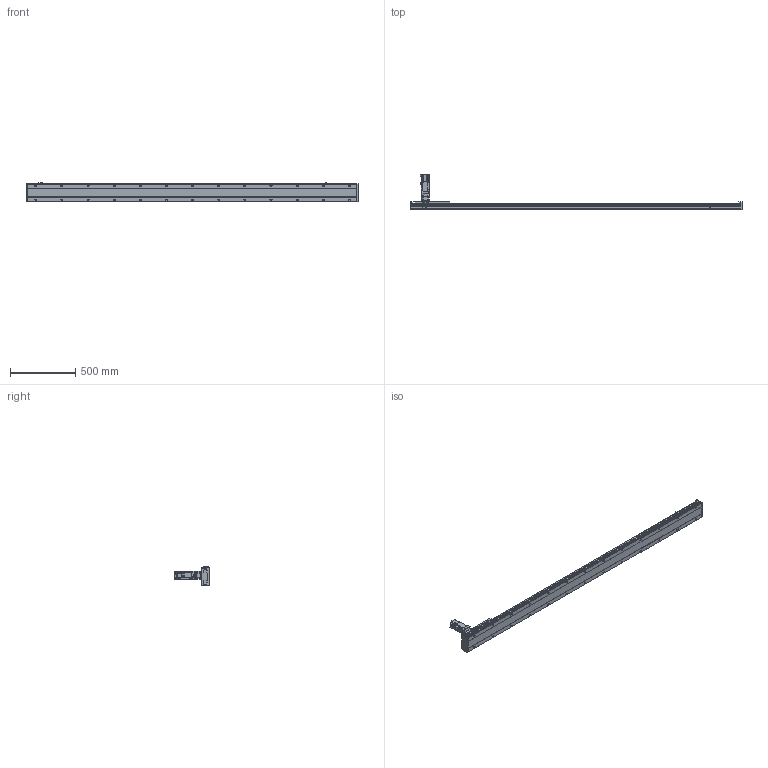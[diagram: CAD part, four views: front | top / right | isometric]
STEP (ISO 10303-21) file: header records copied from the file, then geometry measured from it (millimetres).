
FILE_DESCRIPTION(/* description */ ('STEP AP203'),/* implementation_level */ '2;1');
FILE_NAME(/* name */ 'SHS14A-L10-S2200-BC-T40-C1-N(0)',/* time_stamp */ '2023-03-27T08:50:10+02:00',/* author */ ('License CC BY-ND 4.0'),/* organization */ ('CADENAS'),/* preprocessor_version */ 'ST-DEVELOPER v19.3',/* originating_system */ 'PARTsolutions',/* authorisation */ ' ');
FILE_SCHEMA (('CONFIG_CONTROL_DESIGN'));
Length unit declared in the file: millimetre
Products named in the file (7): SHS14A-L10-S2200-BC-T40-C1-N(0); PSC140-sensor; T40-p1; SHS14AT_body3; SHS14A-2200_slider; SHS14A_body2; SHS14A-S2200-BC-T40-C1(0)_body
Assembly tree (13 placements, depth 2):
  SHS14A-L10-S2200-BC-T40-C1-N(0)
    PSC140-sensor  x3
    T40-p1
    SHS14AT_body3
    SHS14A-2200_slider
    SHS14A_body2  x6
    SHS14A-S2200-BC-T40-C1(0)_body
Bounding box: 2540 x 272.7 x 150.9 mm (x, y, z)
Volume: 10700898.5 mm3; surface area: 1673260.3 mm2
Topology: 13 solids, 13 shells, 2108 faces, 5383 edges, 3520 vertices
Faces by surface type: plane 1473, cylinder 547, cone 78, torus 10
Full cylindrical faces by diameter (mm): 2.8 x3, 4.134 x24, 4.2 x7, 4.4 x24, 4.5 x24, 4.6 x3, 4.8 x24, 4.917 x34, 5 x8, 5.5 x11, 5.94 x6, 6 x2, 6.6 x26, 8 x24, 8.49 x4, 8.5 x4, 9 x4, 10.5 x26, 13.964 x1, 14 x1, 14.182 x1, 16 x1, 18.974 x1, 19.274 x1, 19.774 x1, 19.8 x1, 34.442 x1, 42 x1, 50 x5
Entity records: 33796 total; most frequent: CARTESIAN_POINT 6012, DIRECTION 5713, ORIENTED_EDGE 5262, EDGE_CURVE 2631, AXIS2_PLACEMENT_3D 1985, VERTEX_POINT 1876, LINE 1743, VECTOR 1743
